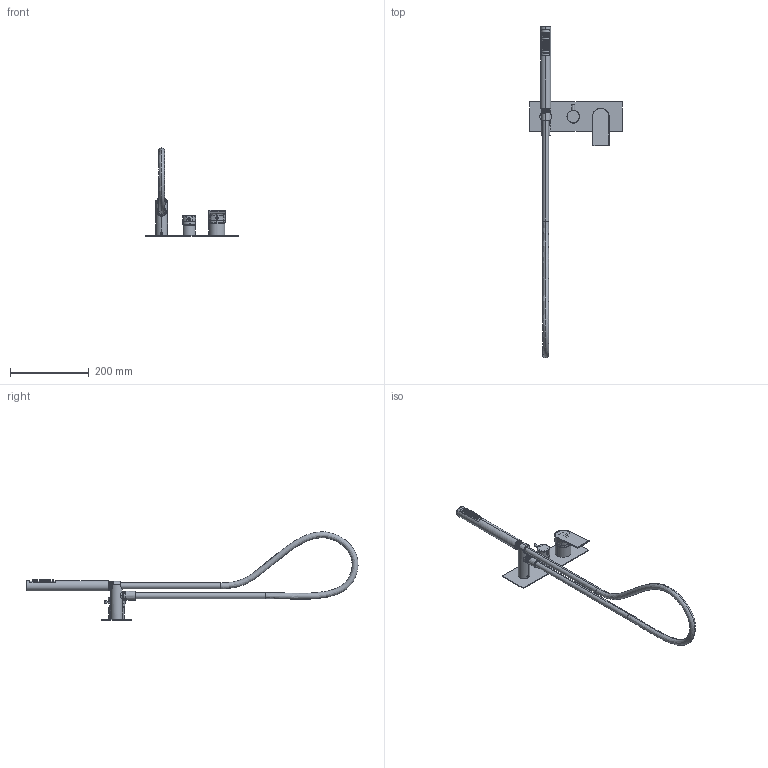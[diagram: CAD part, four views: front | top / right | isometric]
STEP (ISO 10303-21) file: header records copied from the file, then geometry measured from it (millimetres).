
FILE_DESCRIPTION((''),'2;1');
FILE_NAME('78529V2_SW0001','2024-09-13T09:24:51',('carloff'),(''),'CREO PARAMETRIC BY PTC INC, 2022014','CREO PARAMETRIC BY PTC INC, 2022014','');
FILE_SCHEMA(('CONFIG_CONTROL_DESIGN'));
Length unit declared in the file: millimetre
Products named in the file (1): 78529V2_SW0001
Bounding box: 235 x 842.87 x 223.86 mm (x, y, z)
Volume: 478060.6 mm3; surface area: 198676.8 mm2
Topology: 3 solids, 3 shells, 965 faces, 2378 edges, 1467 vertices
Faces by surface type: cylinder 406, plane 228, bspline 161, cone 130, torus 34, sphere 4, extrusion 2
Entity records: 97257 total; most frequent: CARTESIAN_POINT 76588, ORIENTED_EDGE 4704, DIRECTION 3524, EDGE_CURVE 2352, VERTEX_POINT 1467, AXIS2_PLACEMENT_3D 1333, EDGE_LOOP 1061, B_SPLINE_CURVE_WITH_KNOTS 967
